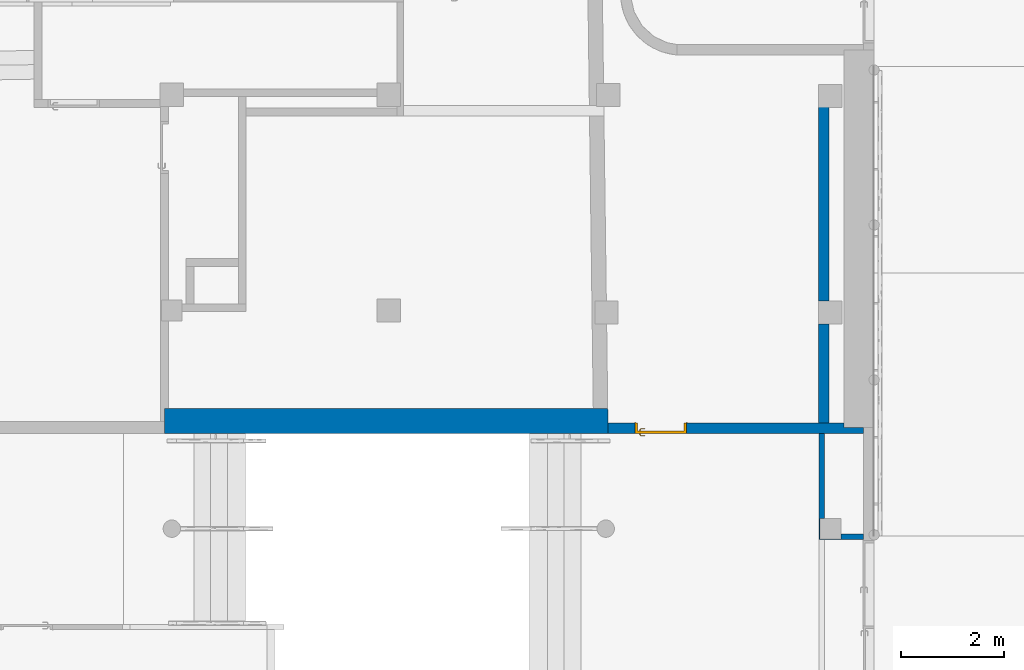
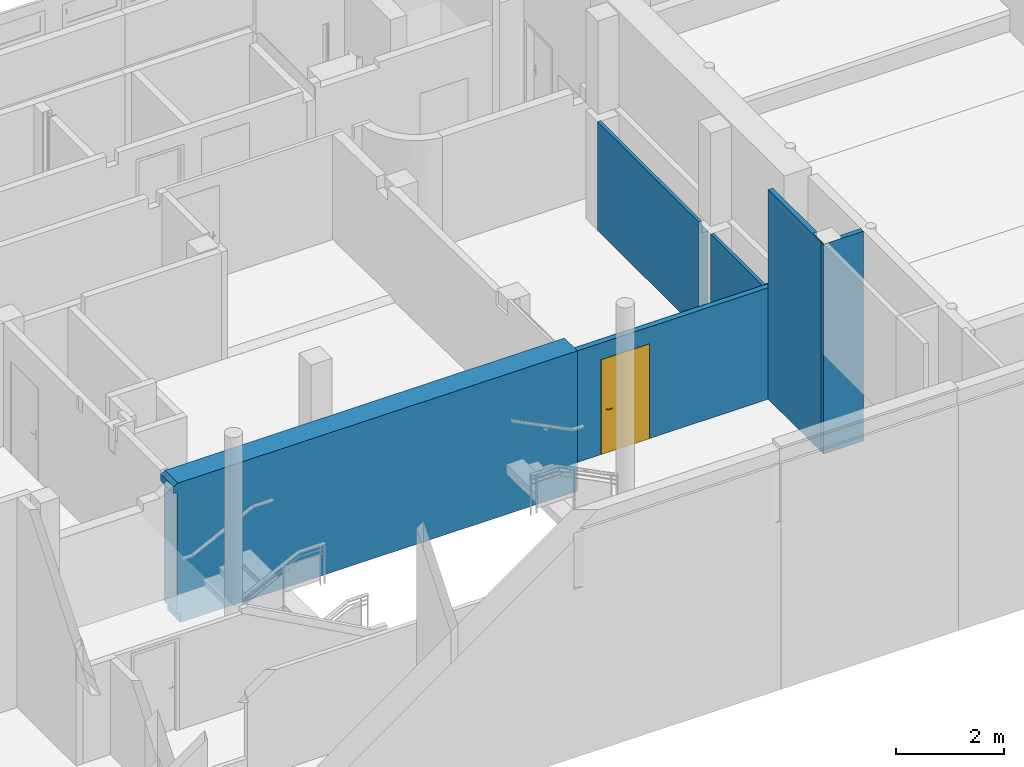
# One storey, part 25 of 39: 5 walls, 1 door, 1 opening.
"""IFC4 building model written with IfcOpenShell, lengths in metres."""

import ifcopenshell
import ifcopenshell.guid

model = None  # the IFC model being written
_history = None  # IfcOwnerHistory: only IFC2X3 demands one
_inside = {}  # id of a spatial element -> (the spatial element, [elements in it])
_under = {}  # id of a project, library or spatial element -> (it, [spatial elements below it])
_declared = {}  # id of a project -> (the project, [libraries it declares])
_typed = {}  # id of a type object -> (the type object, [elements of that type])
_made_of = {}  # id of a material, layer set ... -> (it, [elements and type objects made of it])


def new_model(schema):
    """Start an empty IFC model of exactly this schema.

    Asked for "IFC4X3", IfcOpenShell would pick the latest addendum, in which some entities
    have other attributes; the version numbers below select the first issue.
    IFC2X3 requires an IfcOwnerHistory on every rooted entity: one is made here for all.
    """
    global model, _history
    if schema == "IFC4X3":
        model = ifcopenshell.file(schema_version=(4, 3, 0, 0))
    else:
        model = ifcopenshell.file(schema=schema)
    _inside.clear()
    _under.clear()
    _declared.clear()
    _typed.clear()
    _made_of.clear()
    _history = None
    if model.schema == "IFC2X3":
        org = make("IfcOrganization", Name="unknown")
        user = make(
            "IfcPersonAndOrganization",
            ThePerson=make("IfcPerson", FamilyName="unknown"),
            TheOrganization=org,
        )
        app = make(
            "IfcApplication",
            ApplicationDeveloper=org,
            Version="unknown",
            ApplicationFullName="unknown",
            ApplicationIdentifier="unknown",
        )
        _history = make(
            "IfcOwnerHistory",
            OwningUser=user,
            OwningApplication=app,
            ChangeAction="ADDED",
            CreationDate=0,
        )
    return model


def make(cls, **values):
    """One entity of the class cls with the attributes given. An attribute that is None is left unset."""
    return model.create_entity(
        cls, **{name: value for name, value in values.items() if value is not None}
    )


def entity(cls, *values):
    """Any entity or typed value of the class cls, its attributes in the order of the schema. None: left unset."""
    e = model.create_entity(cls)
    for i, value in enumerate(values):
        if value is not None:
            e[i] = value
    return e


def rooted(cls, **values):
    """An entity with a GlobalId (a new one), such as an element, a storey or a relation."""
    return make(cls, GlobalId=ifcopenshell.guid.new(), OwnerHistory=_history, **values)


def si_unit(unit_type, name, prefix=None):
    """IfcSIUnit, for example si_unit("LENGTHUNIT", "METRE", prefix="MILLI")."""
    return make("IfcSIUnit", UnitType=unit_type, Prefix=prefix, Name=name)


def converted_unit(unit_type, name, factor, base, dimensions=None, offset=None):
    """IfcConversionBasedUnit, such as the inch: factor (a typed value) times the base unit."""
    return make(
        "IfcConversionBasedUnit"
        if offset is None
        else "IfcConversionBasedUnitWithOffset",
        ConversionOffset=offset,
        Dimensions=None
        if dimensions is None
        else entity("IfcDimensionalExponents", *dimensions),
        UnitType=unit_type,
        Name=name,
        ConversionFactor=make(
            "IfcMeasureWithUnit", ValueComponent=factor, UnitComponent=base
        ),
    )


def derived_unit(unit_type, elements):
    """IfcDerivedUnit: a product of units, each with its exponent."""
    return make(
        "IfcDerivedUnit",
        Elements=[
            make("IfcDerivedUnitElement", Unit=unit, Exponent=power)
            for unit, power in elements
        ],
        UnitType=unit_type,
    )


def assignment(units):
    """IfcUnitAssignment: the units of a project."""
    return None if units is None else make("IfcUnitAssignment", Units=units)


def point(xyz):
    """IfcCartesianPoint."""
    return None if xyz is None else make("IfcCartesianPoint", Coordinates=xyz)


def direction(xyz):
    """IfcDirection."""
    return None if xyz is None else make("IfcDirection", DirectionRatios=xyz)


def frame(location, z_axis=None, x_axis=None):
    """IfcAxis2Placement3D, a coordinate frame: its origin and axes. An axis left out is left unset."""
    return make(
        "IfcAxis2Placement3D",
        Location=point(location),
        Axis=direction(z_axis),
        RefDirection=direction(x_axis),
    )


def origin():
    """The frame at (0, 0, 0) with its axes left unset."""
    return frame((0.0, 0.0, 0.0))


def place(relative_to, where):
    """IfcLocalPlacement: puts the frame where relative to a parent placement (None: the world)."""
    return make(
        "IfcLocalPlacement", PlacementRelTo=relative_to, RelativePlacement=where
    )


def context(
    kind, dimensions, precision=None, world=None, true_north=None, identifier=None
):
    """IfcGeometricRepresentationContext, for example the 3D "Model" context."""
    return make(
        "IfcGeometricRepresentationContext",
        ContextIdentifier=identifier,
        ContextType=kind,
        CoordinateSpaceDimension=dimensions,
        Precision=precision,
        WorldCoordinateSystem=world,
        TrueNorth=true_north,
    )


def subcontext(parent, identifier, kind, view, scale=None):
    """IfcGeometricRepresentationSubContext, for example "Body" below "Model"."""
    return make(
        "IfcGeometricRepresentationSubContext",
        ContextIdentifier=identifier,
        ContextType=kind,
        ParentContext=parent,
        TargetScale=scale,
        TargetView=view,
    )


def project(units=None, contexts=None):
    """IfcProject with its units and contexts."""
    return rooted(
        "IfcProject",
        Name="project",
        RepresentationContexts=contexts,
        UnitsInContext=assignment(units),
    )


def spatial(cls, under=None, at=None, **own):
    """A site, building, storey or space (cls), placed at a placement, below another one or the project."""
    s = rooted(cls, ObjectPlacement=at, **own)
    if under is not None:
        _under.setdefault(under.id(), (under, []))[1].append(s)
    return s


def point_list(points):
    """IfcCartesianPointList2D or 3D."""
    cls = (
        "IfcCartesianPointList2D" if len(points[0]) == 2 else "IfcCartesianPointList3D"
    )
    return make(cls, CoordList=points)


def indexed_curve(points, segments=None, self_intersect=None):
    """IfcIndexedPolyCurve: lines and arcs through numbered points (the first is 1)."""
    return make(
        "IfcIndexedPolyCurve",
        Points=point_list(points),
        Segments=segments,
        SelfIntersect=self_intersect,
    )


def outline(outer, holes=None, kind="AREA"):
    """IfcArbitraryClosedProfileDef: a profile drawn as a closed curve; with holes, ...WithVoids."""
    if holes is None:
        return make("IfcArbitraryClosedProfileDef", ProfileType=kind, OuterCurve=outer)
    return make(
        "IfcArbitraryProfileDefWithVoids",
        ProfileType=kind,
        OuterCurve=outer,
        InnerCurves=holes,
    )


def extrude(swept, where, along, depth):
    """IfcExtrudedAreaSolid: the profile swept, set in the frame where, extruded along a direction by depth."""
    return make(
        "IfcExtrudedAreaSolid",
        SweptArea=swept,
        Position=where,
        ExtrudedDirection=direction(along),
        Depth=depth,
    )


def polygons(points, faces, closed=None, point_numbers=None):
    """IfcPolygonalFaceSet: a face is its outer loop, then its inner loops; points numbered from 1."""
    made = []
    for loops in faces:
        if len(loops) == 1:
            made.append(make("IfcIndexedPolygonalFace", CoordIndex=loops[0]))
        else:
            made.append(
                make(
                    "IfcIndexedPolygonalFaceWithVoids",
                    CoordIndex=loops[0],
                    InnerCoordIndices=loops[1:],
                )
            )
    return make(
        "IfcPolygonalFaceSet",
        Coordinates=point_list(points),
        Closed=closed,
        Faces=made,
        PnIndex=point_numbers,
    )


def shape(context_of_items, identifier, shape_type, items):
    """IfcShapeRepresentation: the items that make up one representation, for example the "Body"."""
    return make(
        "IfcShapeRepresentation",
        ContextOfItems=context_of_items,
        RepresentationIdentifier=identifier,
        RepresentationType=shape_type,
        Items=items,
    )


def source(mapping_origin, context_of_items, identifier, shape_type, items):
    """IfcRepresentationMap: a shape defined once, which mapped items show again and again."""
    return make(
        "IfcRepresentationMap",
        MappingOrigin=mapping_origin,
        MappedRepresentation=shape(context_of_items, identifier, shape_type, items),
    )


def transform(
    local_origin,
    x_axis=None,
    y_axis=None,
    z_axis=None,
    scale=None,
    scale2=None,
    scale3=None,
    uniform=True,
):
    """IfcCartesianTransformationOperator3D, or its non-uniform kind. x_axis, y_axis, z_axis: its Axis1, 2, 3."""
    if uniform:
        return make(
            "IfcCartesianTransformationOperator3D",
            Axis1=direction(x_axis),
            Axis2=direction(y_axis),
            LocalOrigin=point(local_origin),
            Scale=scale,
            Axis3=direction(z_axis),
        )
    return make(
        "IfcCartesianTransformationOperator3DnonUniform",
        Axis1=direction(x_axis),
        Axis2=direction(y_axis),
        LocalOrigin=point(local_origin),
        Scale=scale,
        Axis3=direction(z_axis),
        Scale2=scale2,
        Scale3=scale3,
    )


def mapped(mapping_source, mapping_target):
    """IfcMappedItem: shows the shape of a source again, moved by a transform."""
    return make(
        "IfcMappedItem", MappingSource=mapping_source, MappingTarget=mapping_target
    )


def material(Name=None, Category=None):
    """IfcMaterial."""
    return make("IfcMaterial", Name=Name, Category=Category)


def material_list(materials):
    """IfcMaterialList."""
    return make("IfcMaterialList", Materials=materials)


def layer(
    of_material, thickness, ventilated=None, Name=None, Category=None, Priority=None
):
    """IfcMaterialLayer: one layer of a wall or slab, of a material (None: an air gap)."""
    return make(
        "IfcMaterialLayer",
        Material=of_material,
        LayerThickness=thickness,
        IsVentilated=ventilated,
        Name=Name,
        Category=Category,
        Priority=Priority,
    )


def layer_set(layers, Name=None):
    """IfcMaterialLayerSet."""
    return make("IfcMaterialLayerSet", MaterialLayers=layers, LayerSetName=Name)


def constituent(of_material, Name=None, Category=None, fraction=None):
    """IfcMaterialConstituent: one of the materials an element consists of."""
    return make(
        "IfcMaterialConstituent",
        Name=Name,
        Material=of_material,
        Fraction=fraction,
        Category=Category,
    )


def constituent_set(constituents=None, Name=None):
    """IfcMaterialConstituentSet."""
    return make(
        "IfcMaterialConstituentSet", Name=Name, MaterialConstituents=constituents
    )


def made_of(thing, what):
    """Note that an element or type object is made of a material, layer set ...; save() writes the relation."""
    if what is not None:
        _made_of.setdefault(what.id(), (what, []))[1].append(thing)
    return thing


def type_object(cls, material=None, **own):
    """A type object (cls), such as IfcWallType, which elements share."""
    return made_of(rooted(cls, **own), material)


def type_shapes(of_type, sources):
    """Give a type object the sources (RepresentationMaps) that its elements show as mapped items."""
    of_type.RepresentationMaps = sources


def element(
    cls,
    number,
    at=None,
    inside=None,
    cuts=None,
    type_object=None,
    material=None,
    context=None,
    identifier="Body",
    shape_type=None,
    held_by="IfcProductDefinitionShape",
    body=None,
    shapes=None,
    **own,
):
    """One element of the class cls, such as IfcWall. Its Tag is "e" and its number.

    at: its placement. inside: the storey or other place that contains it. cuts: it is an
    opening in that element (IfcRelVoidsElement). A single representation is given by context,
    identifier, shape_type and body (its items); several are given by shapes. held_by: the class
    of the entity that holds the representations. save() writes the other relations.
    """
    e = rooted(cls, Tag="e%d" % number, ObjectPlacement=at, **own)
    if body is not None:
        shapes = [shape(context, identifier, shape_type, body)]
    if shapes is not None:
        e.Representation = make(held_by, Representations=shapes)
    if inside is not None:
        _inside.setdefault(inside.id(), (inside, []))[1].append(e)
    if cuts is not None:
        rooted(
            "IfcRelVoidsElement", RelatingBuildingElement=cuts, RelatedOpeningElement=e
        )
    if type_object is not None:
        _typed.setdefault(type_object.id(), (type_object, []))[1].append(e)
    return made_of(e, material)


def fill(opening, filler):
    """IfcRelFillsElement: the door or window that sits in an opening."""
    return rooted(
        "IfcRelFillsElement",
        RelatingOpeningElement=opening,
        RelatedBuildingElement=filler,
    )


def aggregate(whole, parts):
    """IfcRelAggregates: a whole, such as a stair, and the parts it consists of."""
    return rooted("IfcRelAggregates", RelatingObject=whole, RelatedObjects=parts)


def save(model, path):
    """Write the relations noted so far, then the file.

    IfcRelAggregates (storeys below a building ...), IfcRelContainedInSpatialStructure (elements
    in a storey), IfcRelDefinesByType, IfcRelAssociatesMaterial and IfcRelDeclares: one each for
    every whole, place, type object, material and project.
    """
    for whole, parts in _under.values():
        aggregate(whole, parts)
    for where, things in _inside.values():
        rooted(
            "IfcRelContainedInSpatialStructure",
            RelatedElements=things,
            RelatingStructure=where,
        )
    for kind, things in _typed.values():
        rooted("IfcRelDefinesByType", RelatedObjects=things, RelatingType=kind)
    for what, things in _made_of.values():
        rooted("IfcRelAssociatesMaterial", RelatedObjects=things, RelatingMaterial=what)
    for by, libraries in _declared.values():
        rooted("IfcRelDeclares", RelatingContext=by, RelatedDefinitions=libraries)
    model.write(path)


model = new_model("IFC4")

# Units and contexts
model_context = context("Model", 3, precision=1e-05, world=origin(), true_north=direction((6.12303176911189e-17, 1.0)))
body_context = subcontext(model_context, "Body", "Model", "MODEL_VIEW")
ifc_project = project(units=[si_unit("LENGTHUNIT", "METRE"), si_unit("AREAUNIT", "SQUARE_METRE"), si_unit("VOLUMEUNIT", "CUBIC_METRE"), converted_unit("PLANEANGLEUNIT", "DEGREE", entity("IfcRatioMeasure", 0.0174532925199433), si_unit("PLANEANGLEUNIT", "RADIAN"), dimensions=[0, 0, 0, 0, 0, 0, 0]), si_unit("MASSUNIT", "GRAM", prefix="KILO"), derived_unit("MASSDENSITYUNIT", [(si_unit("MASSUNIT", "GRAM", prefix="KILO"), 1), (si_unit("LENGTHUNIT", "METRE"), -3)]), derived_unit("MOMENTOFINERTIAUNIT", [(si_unit("LENGTHUNIT", "METRE"), 4)]), si_unit("TIMEUNIT", "SECOND"), si_unit("FREQUENCYUNIT", "HERTZ"), si_unit("THERMODYNAMICTEMPERATUREUNIT", "DEGREE_CELSIUS"), derived_unit("THERMALTRANSMITTANCEUNIT", [(si_unit("MASSUNIT", "GRAM", prefix="KILO"), 1), (si_unit("THERMODYNAMICTEMPERATUREUNIT", "KELVIN"), -1), (si_unit("TIMEUNIT", "SECOND"), -3)]), derived_unit("VOLUMETRICFLOWRATEUNIT", [(si_unit("LENGTHUNIT", "METRE"), 3), (si_unit("TIMEUNIT", "SECOND"), -1)]), si_unit("ELECTRICCURRENTUNIT", "AMPERE"), si_unit("ELECTRICVOLTAGEUNIT", "VOLT"), si_unit("POWERUNIT", "WATT"), si_unit("FORCEUNIT", "NEWTON", prefix="KILO"), si_unit("ILLUMINANCEUNIT", "LUX"), si_unit("LUMINOUSFLUXUNIT", "LUMEN"), si_unit("LUMINOUSINTENSITYUNIT", "CANDELA"), derived_unit("USERDEFINED", [(si_unit("MASSUNIT", "GRAM", prefix="KILO"), -1), (si_unit("LENGTHUNIT", "METRE"), -2), (si_unit("TIMEUNIT", "SECOND"), 3), (si_unit("LUMINOUSFLUXUNIT", "LUMEN"), 1)]), derived_unit("LINEARVELOCITYUNIT", [(si_unit("LENGTHUNIT", "METRE"), 1), (si_unit("TIMEUNIT", "SECOND"), -1)]), si_unit("PRESSUREUNIT", "PASCAL"), derived_unit("USERDEFINED", [(si_unit("LENGTHUNIT", "METRE"), -2), (si_unit("MASSUNIT", "GRAM", prefix="KILO"), 1), (si_unit("TIMEUNIT", "SECOND"), -2)]), derived_unit("LINEARFORCEUNIT", [(si_unit("MASSUNIT", "GRAM", prefix="KILO"), 1), (si_unit("LENGTHUNIT", "METRE"), 1), (si_unit("TIMEUNIT", "SECOND"), -2), (si_unit("LENGTHUNIT", "METRE"), -1)]), derived_unit("PLANARFORCEUNIT", [(si_unit("MASSUNIT", "GRAM", prefix="KILO"), 1), (si_unit("LENGTHUNIT", "METRE"), 1), (si_unit("TIMEUNIT", "SECOND"), -2), (si_unit("LENGTHUNIT", "METRE"), -2)])], contexts=[model_context])

# Site, building, storey
site_placement = place(None, origin())
site = spatial("IfcSite", under=ifc_project, at=site_placement, Name="Default", CompositionType="ELEMENT")
building_placement = place(site_placement, origin())
building = spatial("IfcBuilding", under=site, at=building_placement, Name="HOTEL CONSULAIRE BOULOGNE SUR MER", CompositionType="ELEMENT")
storey_placement = place(building_placement, frame((0.0, 0.0, -5.02343668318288)))
storey = spatial("IfcBuildingStorey", under=building, at=storey_placement, Name="SS3", CompositionType="ELEMENT", Elevation=-5.02343668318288)

# Walls
ifc_material_1 = material(Name="Mur par défaut", Category="Divers")
ifc_layer_1 = layer(ifc_material_1, 0.1, Name="Mur par défaut", Category="Divers")
ifc_layer_set_1 = layer_set([ifc_layer_1], Name="Mur de base:Générique - Int. 100 mm")
wall_type_1 = type_object("IfcWallType", Name="Mur de base:Générique - Int. 100 mm", PredefinedType="NOTDEFINED", material=ifc_layer_set_1)
wall_1_placement = place(storey_placement, frame((11.3022268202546, -24.1721900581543, 0.0)))
element("IfcWall", 1, at=wall_1_placement, inside=storey, type_object=wall_type_1, material=ifc_layer_set_1, Name="Mur de base:Générique - Int. 100 mm", ObjectType="Mur de base:Générique - Int. 100 mm", PredefinedType="NOTDEFINED", context=body_context, shape_type="Tessellation", body=[
    polygons([(6.37792606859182e-16, 0.0500000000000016, 0.0), (6.37792606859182e-16, 0.0500000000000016, 4.75343668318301), (0.0186765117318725, 0.0500000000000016, 4.75343668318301), (0.0186765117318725, 0.0500000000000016, 0.0), (1.14321483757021e-15, -0.0499999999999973, 0.0), (0.856999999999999, -0.0499999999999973, 0.0), (0.856999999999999, -0.0499999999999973, 4.75343668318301), (0.1, -0.0499999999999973, 4.75343668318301), (1.14321483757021e-15, -0.0499999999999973, 4.75343668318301), (1.14321483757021e-15, -0.0499999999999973, 2.24911303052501), (0.856999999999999, 0.0500000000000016, 4.75343668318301), (0.856999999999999, 0.0500000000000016, 0.0), (0.418676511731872, 0.050000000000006, 0.0), (0.418676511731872, 0.050000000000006, 4.75343668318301), (0.0186765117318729, -0.0437197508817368, 0.0), (0.418676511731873, -0.0437197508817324, 0.0), (0.418676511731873, -0.0437197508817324, 4.75343668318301), (0.0186765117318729, -0.0437197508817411, 4.75343668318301)], [[[3, 4, 1, 2]], [[11, 12, 13, 14]], [[15, 18, 17, 16]], [[10, 5, 6, 7, 8, 9]], [[5, 1, 4, 15, 16, 13, 12, 6]], [[8, 7, 11, 14, 17, 18, 3, 2, 9]], [[6, 12, 11, 7]], [[15, 4, 3, 18]], [[2, 1, 5, 10, 9]], [[13, 16, 17, 14]]], closed=True),
])
wall_2_placement = place(storey_placement, frame((11.3522268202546, -24.1221900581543, 0.0), z_axis=(0.0, 0.0, 1.0), x_axis=(0.0, 1.0, 0.0)))
element("IfcWall", 2, at=wall_2_placement, inside=storey, type_object=wall_type_1, material=ifc_layer_set_1, Name="Mur de base:Générique - Int. 100 mm", ObjectType="Mur de base:Générique - Int. 100 mm", PredefinedType="NOTDEFINED", context=body_context, shape_type="Tessellation", body=[
    polygons([(1.95297100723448, -0.0499999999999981, 0.0), (1.95297100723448, -0.0499999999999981, 4.75343668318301), (0.306280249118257, -0.0499999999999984, 4.75343668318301), (0.306280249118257, -0.0499999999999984, 0.0), (1.95297100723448, 0.0500000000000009, 0.0), (0.0, 0.0500000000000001, 0.0), (0.0, 0.0500000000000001, 4.75343668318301), (1.95297100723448, 0.0500000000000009, 4.75343668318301), (0.306280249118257, 0.0313234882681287, 0.0), (0.0, 0.0313234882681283, 0.0), (0.0, 0.0313234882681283, 4.75343668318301), (0.306280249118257, 0.0313234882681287, 4.75343668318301)], [[[3, 4, 1, 2]], [[9, 12, 11, 10]], [[8, 5, 6, 7]], [[1, 4, 9, 10, 6, 5]], [[2, 8, 7, 11, 12, 3]], [[6, 10, 11, 7]], [[9, 4, 3, 12]], [[1, 5, 8, 2]]], closed=True),
])
ifc_layer_2 = layer(ifc_material_1, 0.48, Name="Mur par défaut", Category="Divers")
ifc_layer_set_2 = layer_set([ifc_layer_2], Name="Mur de base:Générique - Int. 480 mm")
wall_type_2 = type_object("IfcWallType", Name="Mur de base:Générique - Int. 480 mm", PredefinedType="NOTDEFINED", material=ifc_layer_set_2)
wall_3_placement = place(storey_placement, frame((-1.44715893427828, -21.9292190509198, -0.649999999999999)))
element("IfcWall", 3, at=wall_3_placement, inside=storey, type_object=wall_type_2, material=ifc_layer_set_2, Name="Mur de base:Générique - Int. 480 mm", ObjectType="Mur de base:Générique - Int. 480 mm", PredefinedType="NOTDEFINED", context=body_context, shape_type="Tessellation", body=[
    polygons([(8.66279244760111, -0.240000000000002, 3.17847554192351), (0.0929724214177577, -0.240000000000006, 3.17847554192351), (7.16398895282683e-16, -0.240000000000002, 3.12637283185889), (7.16398895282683e-16, -0.240000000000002, 2.96999999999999), (0.0750000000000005, -0.240000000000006, 2.96999999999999), (0.0750000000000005, -0.240000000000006, 0.22), (0.15, -0.240000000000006, 0.22), (0.15, -0.240000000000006, 0.0), (8.66279244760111, -0.240000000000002, 0.0), (8.66279244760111, -0.240000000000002, 0.359999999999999), (8.66279244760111, -0.240000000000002, 0.649999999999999), (0.092972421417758, 0.239999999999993, 3.17847554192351), (8.65657119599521, 0.239999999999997, 3.17847554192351), (8.65657119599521, 0.239999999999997, 2.91999999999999), (8.65657119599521, 0.239999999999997, 0.672), (8.37654767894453, 0.239999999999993, 0.672), (0.15, 0.239999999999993, 0.672), (0.15, 0.239999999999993, 0.382), (8.37654767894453, 0.239999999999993, 0.382), (8.65657119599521, 0.239999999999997, 0.382), (8.65657119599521, 0.239999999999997, 0.359999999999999), (8.65657119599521, 0.239999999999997, 0.0), (8.37654767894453, 0.239999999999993, 0.0), (0.15, 0.239999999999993, 0.0), (0.15, 0.239999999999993, 0.22), (0.0750000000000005, 0.239999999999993, 0.22), (0.0750000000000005, 0.239999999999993, 2.96999999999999), (-9.30028114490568e-17, 0.239999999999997, 2.96999999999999), (-9.30028114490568e-17, 0.239999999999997, 3.12637283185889), (8.66130193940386, -0.124999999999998, 3.17847554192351), (8.65981143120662, -0.0100000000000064, 0.382), (8.65981143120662, -0.0100000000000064, 0.649999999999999), (8.65981143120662, -0.0100000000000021, 0.672), (0.15, -0.0100000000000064, 0.382), (0.15, -0.0100000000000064, 0.672), (0.0750000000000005, -0.0100000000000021, 0.22)], [[[2, 3, 4, 5, 6, 7, 8, 9, 10, 11, 1]], [[21, 22, 23, 24, 25, 26, 27, 28, 29, 12, 13, 14, 15, 16, 17, 18, 19, 20]], [[32, 31, 34, 35, 33]], [[29, 28, 4, 3]], [[6, 5, 27, 26, 36]], [[7, 25, 24, 8]], [[9, 22, 21, 20, 31, 32, 33, 15, 14, 13, 30, 1, 11, 10]], [[19, 18, 34, 31, 20]], [[2, 1, 30, 13, 12]], [[16, 15, 33, 35, 17]], [[9, 8, 24, 23, 22]], [[5, 4, 28, 27]], [[36, 26, 25, 7, 6]], [[35, 34, 18, 17]], [[3, 2, 12, 29]]], closed=True),
])

# Wall, opening, door
ifc_layer_3 = layer(ifc_material_1, 0.2, Name="Mur par défaut", Category="Divers")
ifc_layer_set_3 = layer_set([ifc_layer_3], Name="Mur de base:Générique - Int.200")
wall_type_3 = type_object("IfcWallType", Name="Mur de base:Générique - Int.200", PredefinedType="NOTDEFINED", material=ifc_layer_set_3)
wall_4_placement = place(storey_placement, frame((7.2130413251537, -22.0692190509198, 0.0)))
wall_4 = element("IfcWall", 4, at=wall_4_placement, inside=storey, type_object=wall_type_3, material=ifc_layer_set_3, Name="Mur de base:Générique - Int.200", ObjectType="Mur de base:Générique - Int.200", PredefinedType="NOTDEFINED", context=body_context, shape_type="Tessellation", body=[
    polygons([(4.94618549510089, -0.100000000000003, 0.0), (4.18918549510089, -0.0999999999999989, 0.0), (4.08918549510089, -0.0999999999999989, 0.0), (1.52508992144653, -0.0999999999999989, 0.0), (1.52508992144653, 0.0999999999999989, 0.0), (4.07921743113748, 0.0999999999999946, 0.0), (4.27921743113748, 0.0999999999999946, 0.0), (4.56618549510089, 0.0999999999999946, 0.0), (4.56618549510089, 0.0149999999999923, 0.0), (4.94618549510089, 0.0149999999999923, 0.0), (4.94618549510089, -0.100000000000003, 2.52849999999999), (0.00259218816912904, -0.0999999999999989, 2.52849999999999), (0.00259218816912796, -0.0999999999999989, 0.0), (0.525089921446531, -0.100000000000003, 0.0), (0.525089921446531, -0.100000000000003, 2.135), (1.52508992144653, -0.0999999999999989, 2.135), (1.52508992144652, 0.0999999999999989, 2.135), (0.52508992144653, 0.0999999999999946, 2.135), (0.52508992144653, 0.0999999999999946, 0.0), (5.82185770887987e-16, 0.0999999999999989, 0.0), (-5.00681358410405e-16, 0.0999999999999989, 2.46399047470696), (4.07921743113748, 0.0999999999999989, 2.46399047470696), (4.27921743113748, 0.0999999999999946, 2.46399047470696), (4.56618549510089, 0.0999999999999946, 2.46399047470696), (4.94618549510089, 0.0149999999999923, 2.52849999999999), (0.00110167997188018, 0.0149999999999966, 2.52849999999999), (0.00110167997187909, 0.0150000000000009, 2.46399047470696), (4.94618549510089, 0.0149999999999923, 2.46399047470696), (4.56618549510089, 0.0149999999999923, 2.46399047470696)], [[[6, 7, 8, 9, 10, 1, 2, 3, 4, 5]], [[14, 13, 20, 19]], [[17, 16, 15, 18]], [[13, 14, 15, 16, 4, 3, 2, 1, 11, 12]], [[23, 24, 8, 7, 6, 5, 17, 18, 19, 20, 21, 22]], [[28, 10, 9, 29, 27, 26, 25]], [[12, 11, 25, 26]], [[29, 24, 23, 22, 21, 27]], [[17, 5, 4, 16]], [[18, 15, 14, 19]], [[11, 1, 10, 28, 25]], [[29, 9, 8, 24]], [[27, 21, 20, 13, 12, 26]]], closed=True),
])
opening_placement = place(wall_4_placement, frame((1.52508992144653, 0.100000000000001, 0.0)))
opening = element("IfcOpeningElement", 5, at=opening_placement, cuts=wall_4, Name="Int. Simple:PP0.93x2.10:1", ObjectType="Opening", PredefinedType="OPENING", context=body_context, shape_type="SweptSolid", body=[
    extrude(outline(indexed_curve([(0.0, 0.0), (2.135, 0.0), (2.135, 0.999999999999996), (0.0, 0.999999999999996), (0.0, 0.0)], self_intersect=False)), frame((0.0, 0.0, 0.0), z_axis=(0.0, -1.0, 0.0), x_axis=(0.0, 0.0, 1.0)), (0.0, 0.0, 1.0), 0.2),
])
ifc_material_2 = material(Name="Finition Peinture - Blanc satiné", Category="Peinture")
ifc_constituent_1 = constituent(ifc_material_2, Name="Finition Peinture - Blanc satiné", Category="Matériaux")
ifc_material_3 = material(Name="Bois - Panneau de porte", Category="Bois")
ifc_constituent_2 = constituent(ifc_material_3, Name="Bois - Panneau de porte", Category="Matériaux")
ifc_material_4 = material(Name="Bois - Cadre de porte", Category="Bois")
ifc_constituent_3 = constituent(ifc_material_4, Name="Bois - Cadre de porte", Category="Matériaux")
ifc_constituent_set = constituent_set(constituents=[ifc_constituent_1, ifc_constituent_2, ifc_constituent_3], Name="MaterialConstituentSet")
ifc_material_list = material_list([ifc_material_2, ifc_material_4, ifc_material_3, ifc_material_4])
door_type = type_object("IfcDoorType", Name="Int. Simple:PP0.93x2.10", OperationType="NOTDEFINED", PredefinedType="DOOR", material=ifc_material_list)
shared_shape = source(origin(), body_context, "Body", "Tessellation", [
    polygons([(0.0750000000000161, -0.00500000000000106, 0.870000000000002), (0.0846472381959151, -0.00500000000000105, 0.866003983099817), (0.0950000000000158, -0.00500000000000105, 0.86464101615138), (0.105352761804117, -0.00500000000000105, 0.866003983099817), (0.115000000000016, -0.00500000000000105, 0.870000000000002), (0.115000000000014, -0.00500000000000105, 1.08), (0.105352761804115, -0.00500000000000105, 1.08399601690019), (0.0950000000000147, -0.00500000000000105, 1.08535898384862), (0.0846472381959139, -0.00500000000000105, 1.08399601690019), (0.0750000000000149, -0.00500000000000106, 1.08), (0.0750000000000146, -1.08286712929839e-15, 0.870000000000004), (0.0750000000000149, -1.08286712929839e-15, 1.08), (0.0846472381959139, -1.06594733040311e-15, 1.08399601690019), (0.0950000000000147, -1.06594733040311e-15, 1.08535898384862), (0.105352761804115, -1.06594733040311e-15, 1.08399601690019), (0.115000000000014, -1.06594733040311e-15, 1.08), (0.115000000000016, -1.06594733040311e-15, 0.870000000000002), (0.105352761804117, -1.06594733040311e-15, 0.866003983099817), (0.0950000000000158, -1.06594733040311e-15, 0.86464101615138), (0.0846472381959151, -1.06594733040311e-15, 0.866003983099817)], [[[4, 5, 6, 7, 8, 9, 10, 1, 2, 3]], [[15, 16, 17, 18, 19, 20, 11, 12, 13, 14]], [[11, 20, 2, 1]], [[2, 20, 19, 3]], [[19, 18, 4, 3]], [[18, 17, 5, 4]], [[6, 5, 17, 16]], [[16, 15, 7, 6]], [[7, 15, 14, 8]], [[14, 13, 9, 8]], [[13, 12, 10, 9]], [[1, 10, 12, 11]]], closed=True),
    polygons([(0.115000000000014, 0.0399999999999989, 1.08), (0.105352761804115, 0.0399999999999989, 1.08399601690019), (0.0950000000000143, 0.0399999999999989, 1.08535898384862), (0.0846472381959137, 0.0399999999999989, 1.08399601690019), (0.0750000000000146, 0.0399999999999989, 1.08), (0.0750000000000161, 0.0399999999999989, 0.870000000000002), (0.0846472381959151, 0.0399999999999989, 0.866003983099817), (0.0950000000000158, 0.0399999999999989, 0.86464101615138), (0.105352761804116, 0.0399999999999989, 0.866003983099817), (0.115000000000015, 0.0399999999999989, 0.870000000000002), (0.115000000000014, 0.0449999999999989, 1.08), (0.115000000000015, 0.0449999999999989, 0.870000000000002), (0.105352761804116, 0.0449999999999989, 0.866003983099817), (0.0950000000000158, 0.0449999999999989, 0.86464101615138), (0.0846472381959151, 0.0449999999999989, 0.866003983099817), (0.0750000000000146, 0.0449999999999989, 0.870000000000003), (0.0750000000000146, 0.0449999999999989, 1.08), (0.0846472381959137, 0.0449999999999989, 1.08399601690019), (0.0950000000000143, 0.0449999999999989, 1.08535898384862), (0.105352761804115, 0.0449999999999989, 1.08399601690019)], [[[9, 10, 1, 2, 3, 4, 5, 6, 7, 8]], [[20, 11, 12, 13, 14, 15, 16, 17, 18, 19]], [[11, 20, 2, 1]], [[2, 20, 19, 3]], [[19, 18, 4, 3]], [[18, 17, 5, 4]], [[6, 5, 17, 16]], [[16, 15, 7, 6]], [[7, 15, 14, 8]], [[14, 13, 9, 8]], [[13, 12, 10, 9]], [[1, 10, 12, 11]]], closed=True),
    polygons([(0.0889999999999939, -0.00500000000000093, 1.007), (0.0929747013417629, -0.00500000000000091, 1.00778044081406), (0.0970252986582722, -0.00500000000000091, 1.00778044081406), (0.101000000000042, -0.00500000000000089, 1.00699999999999), (0.101000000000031, -0.00500000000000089, 0.993000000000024), (0.097025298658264, -0.00500000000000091, 0.992219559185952), (0.0929747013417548, -0.00500000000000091, 0.99221955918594), (0.088999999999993, -0.00500000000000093, 0.992999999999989), (0.0889999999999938, -0.0326509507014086, 1.007), (0.0929747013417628, -0.0310045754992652, 1.00778044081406), (0.097025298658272, -0.0293267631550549, 1.00778044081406), (0.101000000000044, -0.0276803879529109, 1.007), (0.101000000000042, -0.0276803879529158, 0.993000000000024), (0.097025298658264, -0.0293267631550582, 0.992219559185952), (0.0929747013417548, -0.0310045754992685, 0.99221955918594), (0.0889999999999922, -0.0326509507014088, 0.992999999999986), (0.107377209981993, -0.0510281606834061, 1.007), (0.109023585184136, -0.0470534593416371, 1.00778044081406), (0.110701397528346, -0.0430028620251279, 1.00778044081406), (0.112347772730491, -0.0390281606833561, 1.007), (0.112347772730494, -0.0390281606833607, 0.993000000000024), (0.110701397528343, -0.0430028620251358, 0.992219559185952), (0.109023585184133, -0.0470534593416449, 0.99221955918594), (0.107377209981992, -0.0510281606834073, 0.992999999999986), (0.195018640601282, -0.0510281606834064, 1.00699999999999), (0.195018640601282, -0.051028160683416, 0.992999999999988), (0.195018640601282, -0.0470534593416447, 0.99221955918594), (0.195018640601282, -0.0430028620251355, 0.992219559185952), (0.195018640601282, -0.0390281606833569, 0.993000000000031), (0.195018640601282, -0.0390281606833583, 1.007), (0.195018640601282, -0.0430028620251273, 1.00778044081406), (0.195018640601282, -0.0470534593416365, 1.00778044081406), (0.147307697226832, -0.0510281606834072, 1.007), (0.152860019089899, -0.045028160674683, 1.0078786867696), (0.153683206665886, -0.039028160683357, 1.007), (0.147307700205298, -0.0510281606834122, 0.992999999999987), (0.152860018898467, -0.0450281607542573, 0.992121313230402), (0.153683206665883, -0.0390281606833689, 0.993000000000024)], [[[2, 3, 4, 5, 6, 7, 8, 1]], [[21, 20, 35, 30, 29, 38]], [[9, 10, 2, 1]], [[10, 18, 19, 11, 3, 2]], [[11, 12, 4, 3]], [[5, 4, 12, 13]], [[26, 27, 28, 29, 30, 31, 32, 25]], [[13, 14, 6, 5]], [[14, 22, 23, 15, 7, 6]], [[15, 16, 8, 7]], [[1, 8, 16, 9]], [[17, 18, 10, 9]], [[19, 20, 12, 11]], [[13, 12, 20, 21]], [[21, 22, 14, 13]], [[23, 24, 16, 15]], [[9, 16, 24, 17]], [[33, 32, 34]], [[25, 32, 33]], [[18, 17, 33]], [[34, 35, 19]], [[20, 19, 35]], [[35, 31, 30]], [[32, 31, 34]], [[31, 35, 34]], [[18, 33, 34]], [[18, 34, 19]], [[38, 28, 37]], [[36, 37, 27]], [[21, 38, 22]], [[38, 29, 28]], [[26, 36, 27]], [[24, 23, 36]], [[36, 23, 37]], [[23, 22, 37]], [[22, 38, 37]], [[27, 37, 28]], [[17, 24, 36, 26, 25, 33]]], closed=True),
    polygons([(0.101000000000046, 0.0449999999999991, 0.993000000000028), (0.101000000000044, 0.0449999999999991, 1.007), (0.0970252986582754, 0.0449999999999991, 1.00778044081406), (0.0929747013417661, 0.0449999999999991, 1.00778044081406), (0.0889999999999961, 0.044999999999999, 1.007), (0.0889999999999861, 0.044999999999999, 0.992999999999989), (0.0929747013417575, 0.0449999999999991, 0.99221955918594), (0.0970252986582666, 0.0449999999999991, 0.992219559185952), (0.101000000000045, 0.067485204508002, 0.993000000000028), (0.101000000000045, 0.0674852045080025, 1.007), (0.0970252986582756, 0.0691315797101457, 1.00778044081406), (0.0929747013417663, 0.070809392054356, 1.00778044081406), (0.0889999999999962, 0.0724557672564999, 1.007), (0.0889999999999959, 0.072455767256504, 0.992999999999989), (0.0929747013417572, 0.0708093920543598, 0.99221955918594), (0.0970252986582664, 0.0691315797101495, 0.992219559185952), (0.112485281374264, 0.0789704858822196, 0.993000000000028), (0.112485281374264, 0.0789704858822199, 1.007), (0.11083890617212, 0.0829451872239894, 1.00778044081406), (0.10916109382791, 0.0869957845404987, 1.00778044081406), (0.107514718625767, 0.0909704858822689, 1.007), (0.107514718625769, 0.090970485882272, 0.992999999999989), (0.109161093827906, 0.0869957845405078, 0.99221955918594), (0.110838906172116, 0.0829451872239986, 0.992219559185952), (0.195045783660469, 0.0789704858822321, 0.993000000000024), (0.195045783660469, 0.0829451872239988, 0.992219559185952), (0.195045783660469, 0.086995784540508, 0.99221955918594), (0.195045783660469, 0.0909704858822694, 0.992999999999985), (0.195045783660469, 0.0909704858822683, 1.007), (0.195045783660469, 0.0869957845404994, 1.00778044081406), (0.195045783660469, 0.0829451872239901, 1.00778044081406), (0.195045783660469, 0.0789704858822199, 1.007), (0.147445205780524, 0.0909704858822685, 1.007), (0.15294234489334, 0.0849704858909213, 1.0078786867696), (0.153765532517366, 0.0789704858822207, 1.007), (0.147445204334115, 0.0909704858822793, 0.992999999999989), (0.152942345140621, 0.0849704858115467, 0.992121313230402), (0.153765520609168, 0.0789704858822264, 0.993000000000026)], [[[4, 5, 6, 7, 8, 1, 2, 3]], [[18, 17, 38, 25, 32, 35]], [[2, 1, 9, 10]], [[25, 26, 27, 28, 29, 30, 31, 32]], [[10, 11, 3, 2]], [[11, 19, 20, 12, 4, 3]], [[12, 13, 5, 4]], [[6, 5, 13, 14]], [[14, 15, 7, 6]], [[15, 23, 24, 16, 8, 7]], [[16, 9, 1, 8]], [[10, 9, 17, 18]], [[18, 19, 11, 10]], [[20, 21, 13, 12]], [[14, 13, 21, 22]], [[22, 23, 15, 14]], [[24, 17, 9, 16]], [[35, 31, 34]], [[33, 34, 30]], [[18, 35, 19]], [[35, 32, 31]], [[29, 33, 30]], [[21, 20, 33]], [[33, 20, 34]], [[20, 19, 34]], [[19, 35, 34]], [[30, 34, 31]], [[21, 33, 29, 28, 36, 22]], [[36, 27, 37]], [[28, 27, 36]], [[23, 22, 36]], [[37, 38, 24]], [[17, 24, 38]], [[38, 26, 25]], [[27, 26, 37]], [[26, 38, 37]], [[23, 36, 37]], [[23, 37, 24]]], closed=True),
    polygons([(0.0350000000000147, 0.0400000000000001, 2.1), (0.965000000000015, 0.0400000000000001, 2.1), (0.965000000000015, 0.0400000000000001, 0.0), (0.0350000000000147, 0.0400000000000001, 0.0), (0.0350000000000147, 6.76791955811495e-17, 2.1), (0.0350000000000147, 6.76791955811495e-17, 0.0), (0.965000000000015, 6.76791955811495e-17, 0.0), (0.965000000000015, 6.76791955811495e-17, 2.1)], [[[4, 1, 2, 3]], [[7, 8, 5, 6]], [[2, 1, 5, 8]], [[3, 2, 8, 7]], [[4, 3, 7, 6]], [[1, 4, 6, 5]]], closed=True),
    polygons([(-2.03037586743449e-16, 0.0, 0.0), (-2.03037586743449e-16, 0.200000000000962, 0.0), (0.0500000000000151, 0.200000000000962, 0.0), (0.0500000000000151, 0.040000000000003, 0.0), (0.0350000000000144, 0.040000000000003, 0.0), (0.0350000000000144, 0.0, 0.0), (-2.03037586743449e-16, 0.0, 2.135), (-2.03037586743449e-16, 0.200000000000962, 2.135), (0.999999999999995, 0.200000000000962, 2.135), (0.999999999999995, 0.200000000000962, 4.03399441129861e-24), (0.94999999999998, 0.200000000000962, -4.03399441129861e-24), (0.94999999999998, 0.200000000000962, 2.08499999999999), (0.050000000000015, 0.200000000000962, 2.08499999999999), (0.050000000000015, 0.040000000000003, 2.08499999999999), (0.94999999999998, 0.040000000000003, 2.08499999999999), (0.94999999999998, 0.040000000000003, 2.98921792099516e-24), (0.964999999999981, 0.040000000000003, 5.51408371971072e-25), (0.964999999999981, 0.040000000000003, 2.09999999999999), (0.0350000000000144, 0.040000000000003, 2.09999999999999), (0.0350000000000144, 0.0, 2.09999999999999), (0.964999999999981, 0.0, 2.09999999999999), (0.964999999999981, 0.0, 3.80347952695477e-24), (0.999999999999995, 0.0, 8.45217443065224e-25), (0.999999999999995, 0.0, 2.135)], [[[5, 6, 1, 2, 3, 4]], [[11, 10, 23, 22, 17, 16]], [[14, 13, 12, 15]], [[20, 19, 18, 21]], [[2, 1, 7, 8]], [[15, 12, 11, 16]], [[21, 18, 17, 22]], [[3, 2, 8, 9, 10, 11, 12, 13]], [[4, 3, 13, 14]], [[6, 5, 19, 20]], [[9, 24, 23, 10]], [[16, 17, 18, 19, 5, 4, 14, 15]], [[22, 23, 24, 7, 1, 6, 20, 21]], [[8, 7, 24, 9]]], closed=True),
    polygons([(0.0149999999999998, 0.200000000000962, 0.0), (-0.0150000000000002, 0.200000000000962, 0.0), (-0.0150000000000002, 0.205000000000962, 0.0), (0.0149999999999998, 0.205000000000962, 0.0), (0.0149999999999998, 0.200000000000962, 2.12000000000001), (0.984999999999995, 0.200000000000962, 2.12000000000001), (0.984999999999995, 0.200000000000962, 1.21780997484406e-24), (1.015, 0.200000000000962, -5.32791365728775e-25), (1.015, 0.200000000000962, 2.15000000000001), (-0.0150000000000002, 0.200000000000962, 2.15000000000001), (-0.0150000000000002, 0.205000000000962, 2.15000000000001), (1.015, 0.205000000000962, 2.15000000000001), (1.015, 0.205000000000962, -4.03399441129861e-24), (0.984999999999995, 0.205000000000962, 0.0), (0.984999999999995, 0.205000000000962, 2.12000000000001), (0.0149999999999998, 0.205000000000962, 2.12000000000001)], [[[2, 3, 4, 1]], [[14, 13, 8, 7]], [[5, 16, 15, 6]], [[7, 8, 9, 10, 2, 1, 5, 6]], [[3, 2, 10, 11]], [[6, 15, 14, 7]], [[4, 3, 11, 12, 13, 14, 15, 16]], [[1, 4, 16, 5]], [[12, 9, 8, 13]], [[11, 10, 9, 12]]], closed=True),
    polygons([(0.0149999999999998, -0.00500000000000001, 0.0), (-0.0150000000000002, -0.00500000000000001, 0.0), (-0.0150000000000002, 0.0, 0.0), (0.0149999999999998, 0.0, 0.0), (0.984999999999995, -0.00500000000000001, -4.06075173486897e-16), (0.984999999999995, 0.0, -4.06075173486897e-16), (1.015, 0.0, -4.06075173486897e-16), (1.015, -0.00500000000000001, -4.06075173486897e-16), (0.0149999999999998, -0.00500000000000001, 2.12000000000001), (0.984999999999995, -0.00500000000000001, 2.12000000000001), (1.015, -0.00500000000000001, 2.15000000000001), (-0.0150000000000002, -0.00500000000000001, 2.15000000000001), (-0.0150000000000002, 0.0, 2.15000000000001), (1.015, 0.0, 2.15000000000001), (0.984999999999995, 0.0, 2.12000000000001), (0.0149999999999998, 0.0, 2.12000000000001)], [[[1, 2, 3, 4]], [[6, 7, 8, 5]], [[9, 16, 15, 10]], [[5, 8, 11, 12, 2, 1, 9, 10]], [[3, 2, 12, 13]], [[10, 15, 6, 5]], [[4, 3, 13, 14, 7, 6, 15, 16]], [[1, 4, 16, 9]], [[14, 11, 8, 7]], [[13, 12, 11, 14]]], closed=True),
])
type_shapes(door_type, [shared_shape])
door_placement = place(opening_placement, frame((-1.0, -0.200000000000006, 0.0)))
door = element("IfcDoor", 6, at=door_placement, inside=storey, type_object=door_type, material=ifc_constituent_set, Name="Int. Simple:PP0.93x2.10", ObjectType="Int. Simple:PP0.93x2.10", OperationType="NOTDEFINED", OverallHeight=2.135, OverallWidth=0.999999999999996, PredefinedType="DOOR", context=body_context, shape_type="MappedRepresentation", body=[
    mapped(shared_shape, transform((0.0, 0.0, 0.0), scale=1.0)),
])
fill(opening, door)

# Wall
wall_5_placement = place(storey_placement, frame((11.3922587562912, -21.9692190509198, 0.0), z_axis=(0.0, 0.0, 1.0), x_axis=(0.0, 1.0, 0.0)))
element("IfcWall", 7, at=wall_5_placement, inside=storey, type_object=wall_type_3, material=ifc_layer_set_3, Name="Mur de base:Générique - Int.200", ObjectType="Mur de base:Générique - Int.200", PredefinedType="NOTDEFINED", context=body_context, shape_type="Tessellation", body=[
    polygons([(4.33146851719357e-15, -0.100000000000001, 2.46399047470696), (0.0177474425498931, -0.100000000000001, 2.46399047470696), (0.0177474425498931, 0.0318208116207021, 2.46399047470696), (1.91501902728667, 0.0318208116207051, 2.46399047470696), (1.91501902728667, 0.0999999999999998, 2.46399047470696), (0.0, 0.099999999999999, 2.46399047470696), (0.0177474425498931, 0.0318208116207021, 2.18999999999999), (1.91501902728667, 0.0318208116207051, 2.18999999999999), (0.0177474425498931, -0.100000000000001, 2.18999999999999), (1.91501902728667, -0.1, 2.18999999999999), (1.91501902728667, 0.0999999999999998, 0.0), (4.33146851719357e-15, 0.099999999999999, 0.0), (0.0, -0.100000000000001, 0.0), (1.91501902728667, -0.1, 0.0)], [[[3, 4, 5, 6, 1, 2]], [[9, 10, 8, 7]], [[7, 8, 4, 3]], [[2, 1, 13, 14, 10, 9]], [[5, 11, 12, 6]], [[14, 13, 12, 11]], [[12, 13, 1, 6]], [[3, 2, 9, 7]], [[5, 4, 8, 10, 14, 11]]], closed=True),
    polygons([(6.12530924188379, -0.1, 0.0), (6.12530924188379, -0.1, 2.18999999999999), (2.36501902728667, -0.100000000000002, 2.18999999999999), (2.36501902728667, -0.100000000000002, 0.0), (6.12530924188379, 0.1, 0.0), (2.36501902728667, 0.0999999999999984, 0.0), (2.36501902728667, 0.0999999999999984, 2.46399047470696), (6.12530924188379, 0.1, 2.46399047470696), (6.12530924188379, 0.0318208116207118, 2.46399047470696), (6.12530924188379, 0.0318208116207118, 2.18999999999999), (6.10386787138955, 0.0318208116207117, 2.18999999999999), (2.36501902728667, 0.0318208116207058, 2.18999999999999), (6.10386787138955, 0.0318208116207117, 2.46399047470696), (2.36501902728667, 0.0318208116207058, 2.46399047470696)], [[[3, 4, 1, 2]], [[11, 10, 9, 13, 14, 12]], [[1, 4, 6, 5]], [[8, 5, 6, 7]], [[1, 5, 8, 9, 10, 2]], [[3, 2, 10, 11, 12]], [[13, 9, 8, 7, 14]], [[14, 7, 6, 4, 3, 12]]], closed=True),
])

save(model, "model.ifc")
